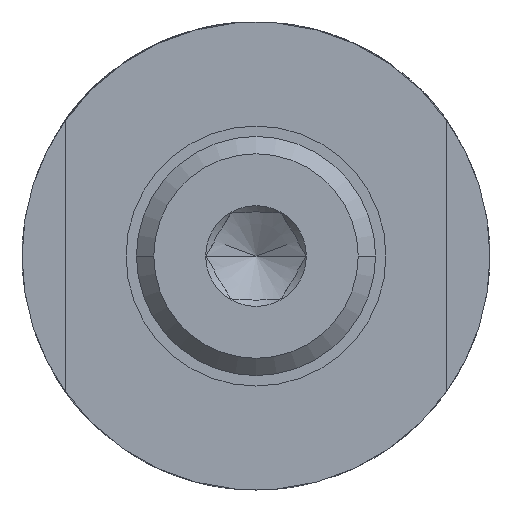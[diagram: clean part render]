
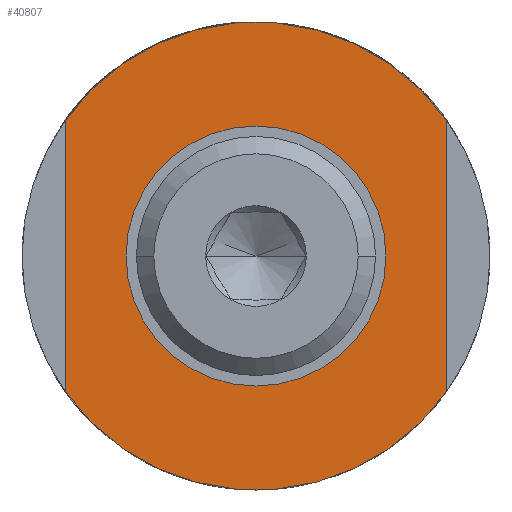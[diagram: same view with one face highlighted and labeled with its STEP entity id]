
A CAD part, left-side view. The second image highlights one B-rep face of the part: STEP entity #40807.
In plain terms, the highlighted planar face has unit normal (-1, 0, 0).
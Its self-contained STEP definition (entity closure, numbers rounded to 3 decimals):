
#11966=DIRECTION('',(0.,0.,-1.));
#11967=VECTOR('',#11966,15.652);
#11968=CARTESIAN_POINT('',(0.,-11.,7.826));
#11969=LINE('',#11968,#11967);
#12071=CARTESIAN_POINT('',(0.,0.,0.));
#12072=DIRECTION('',(-1.,0.,0.));
#12073=DIRECTION('',(0.,0.815,-0.58));
#12074=AXIS2_PLACEMENT_3D('',#12071,#12072,#12073);
#12079=CARTESIAN_POINT('',(0.,0.,0.));
#12080=DIRECTION('',(-1.,0.,0.));
#12081=DIRECTION('',(0.,-0.815,0.58));
#12082=AXIS2_PLACEMENT_3D('',#12079,#12080,#12081);
#12087=CARTESIAN_POINT('',(0.,0.,0.));
#12088=DIRECTION('',(1.,0.,0.));
#12089=DIRECTION('',(0.,0.,1.));
#12090=AXIS2_PLACEMENT_3D('',#12087,#12088,#12089);
#12095=CARTESIAN_POINT('',(0.,0.,0.));
#12096=DIRECTION('',(1.,0.,0.));
#12097=DIRECTION('',(0.,0.,-1.));
#12098=AXIS2_PLACEMENT_3D('',#12095,#12096,#12097);
#12103=DIRECTION('',(0.,0.,1.));
#12104=VECTOR('',#12103,15.652);
#12105=CARTESIAN_POINT('',(0.,11.,-7.826));
#12106=LINE('',#12105,#12104);
#34179=CARTESIAN_POINT('',(0.,11.,-7.826));
#34180=CARTESIAN_POINT('',(0.,11.,7.826));
#34181=VERTEX_POINT('',#34179);
#34182=VERTEX_POINT('',#34180);
#34187=CARTESIAN_POINT('',(0.,-11.,7.826));
#34188=CARTESIAN_POINT('',(0.,-11.,-7.826));
#34189=VERTEX_POINT('',#34187);
#34190=VERTEX_POINT('',#34188);
#35458=CARTESIAN_POINT('',(0.,0.,7.5));
#35460=VERTEX_POINT('',#35458);
#35462=CARTESIAN_POINT('',(0.,0.,-7.5));
#35464=VERTEX_POINT('',#35462);
#40789=CARTESIAN_POINT('',(0.,6.75,0.));
#40790=DIRECTION('',(-1.,0.,0.));
#40791=DIRECTION('',(0.,0.,1.));
#40792=AXIS2_PLACEMENT_3D('',#40789,#40790,#40791);
#40793=PLANE('',#40792);
#40794=ORIENTED_EDGE('',*,*,#40745,.T.);
#40795=ORIENTED_EDGE('',*,*,#37002,.F.);
#40797=ORIENTED_EDGE('',*,*,#40796,.T.);
#40798=ORIENTED_EDGE('',*,*,#37558,.F.);
#40799=EDGE_LOOP('',(#40794,#40795,#40797,#40798));
#40800=FACE_OUTER_BOUND('',#40799,.F.);
#40802=ORIENTED_EDGE('',*,*,#40801,.F.);
#40804=ORIENTED_EDGE('',*,*,#40803,.F.);
#40805=EDGE_LOOP('',(#40802,#40804));
#40806=FACE_BOUND('',#40805,.F.);
#12075=CIRCLE('',#12074,13.5);
#12083=CIRCLE('',#12082,13.5);
#12091=CIRCLE('',#12090,7.5);
#12099=CIRCLE('',#12098,7.5);
#37002=EDGE_CURVE('',#34181,#34190,#12075,.T.);
#37558=EDGE_CURVE('',#34189,#34182,#12083,.T.);
#40745=EDGE_CURVE('',#34189,#34190,#11969,.T.);
#40796=EDGE_CURVE('',#34181,#34182,#12106,.T.);
#40801=EDGE_CURVE('',#35460,#35464,#12091,.T.);
#40803=EDGE_CURVE('',#35464,#35460,#12099,.T.);
#40807=ADVANCED_FACE('',(#40800,#40806),#40793,.T.);
